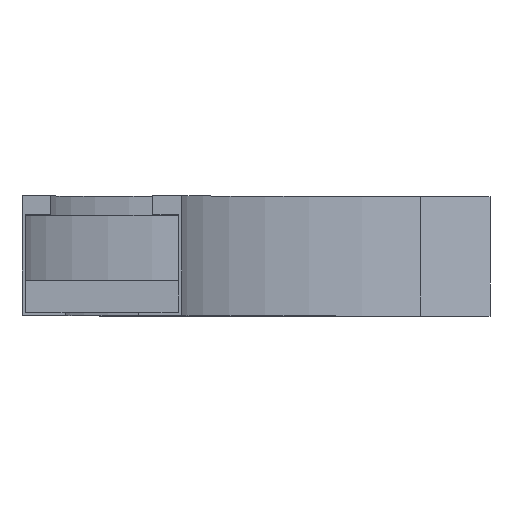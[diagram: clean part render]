
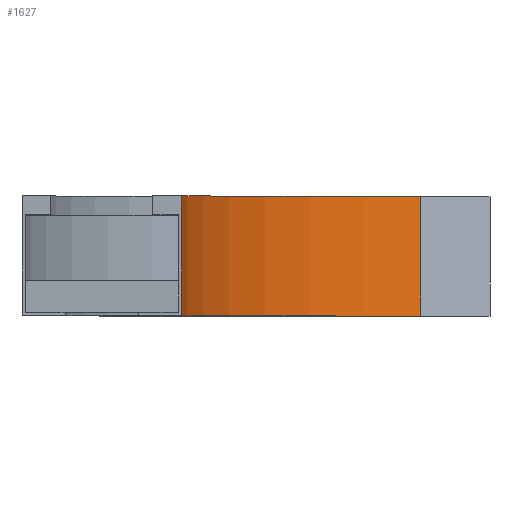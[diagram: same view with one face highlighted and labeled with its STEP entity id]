
A CAD part, top view. The second image highlights one B-rep face of the part: STEP entity #1627.
In plain terms, the highlighted cylindrical face has radius 300 mm (diameter 600 mm), a partial arc.
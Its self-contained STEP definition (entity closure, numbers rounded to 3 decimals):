
#34 = VERTEX_POINT ( 'NONE', #562 ) ;
#144 = CARTESIAN_POINT ( 'NONE',  ( 150., 75., -309.808 ) ) ;
#149 = AXIS2_PLACEMENT_3D ( 'NONE', #1434, #1177, #165 ) ;
#159 = ORIENTED_EDGE ( 'NONE', *, *, #524, .F. ) ;
#165 = DIRECTION ( 'NONE',  ( 0., 0., -1. ) ) ;
#193 = DIRECTION ( 'NONE',  ( 0., 1., 0. ) ) ;
#253 = EDGE_CURVE ( 'NONE', #567, #34, #758, .T. ) ;
#350 = DIRECTION ( 'NONE',  ( 0., -1., 0. ) ) ;
#393 = VERTEX_POINT ( 'NONE', #144 ) ;
#443 = VECTOR ( 'NONE', #501, 1000. ) ;
#469 = CIRCLE ( 'NONE', #939, 300. ) ;
#501 = DIRECTION ( 'NONE',  ( 0., 1., 0. ) ) ;
#522 = CARTESIAN_POINT ( 'NONE',  ( 0., 0., -50. ) ) ;
#524 = EDGE_CURVE ( 'NONE', #1267, #393, #469, .T. ) ;
#562 = CARTESIAN_POINT ( 'NONE',  ( 150., 0., -309.808 ) ) ;
#567 = VERTEX_POINT ( 'NONE', #522 ) ;
#614 = FACE_OUTER_BOUND ( 'NONE', #1612, .T. ) ;
#758 = CIRCLE ( 'NONE', #940, 300. ) ;
#779 = CARTESIAN_POINT ( 'NONE',  ( 150., 0., -309.808 ) ) ;
#905 = LINE ( 'NONE', #779, #1186 ) ;
#915 = DIRECTION ( 'NONE',  ( -1., 0., 0. ) ) ;
#922 = CARTESIAN_POINT ( 'NONE',  ( 300., 75., -50. ) ) ;
#939 = AXIS2_PLACEMENT_3D ( 'NONE', #922, #350, #915 ) ;
#940 = AXIS2_PLACEMENT_3D ( 'NONE', #1642, #1671, #957 ) ;
#957 = DIRECTION ( 'NONE',  ( -1., 0., 0. ) ) ;
#1130 = ORIENTED_EDGE ( 'NONE', *, *, #1282, .F. ) ;
#1177 = DIRECTION ( 'NONE',  ( 0., -1., 0. ) ) ;
#1186 = VECTOR ( 'NONE', #193, 1000. ) ;
#1211 = CARTESIAN_POINT ( 'NONE',  ( 0., 0., -50. ) ) ;
#1267 = VERTEX_POINT ( 'NONE', #1796 ) ;
#1282 = EDGE_CURVE ( 'NONE', #567, #1267, #1333, .T. ) ;
#1305 = ORIENTED_EDGE ( 'NONE', *, *, #253, .T. ) ;
#1333 = LINE ( 'NONE', #1211, #443 ) ;
#1413 = CYLINDRICAL_SURFACE ( 'NONE', #149, 300. ) ;
#1434 = CARTESIAN_POINT ( 'NONE',  ( 300., 0., -50. ) ) ;
#1519 = ORIENTED_EDGE ( 'NONE', *, *, #1693, .T. ) ;
#1612 = EDGE_LOOP ( 'NONE', ( #159, #1130, #1305, #1519 ) ) ;
#1627 = ADVANCED_FACE ( 'NONE', ( #614 ), #1413, .F. ) ;
#1642 = CARTESIAN_POINT ( 'NONE',  ( 300., 0., -50. ) ) ;
#1671 = DIRECTION ( 'NONE',  ( 0., -1., 0. ) ) ;
#1693 = EDGE_CURVE ( 'NONE', #34, #393, #905, .T. ) ;
#1796 = CARTESIAN_POINT ( 'NONE',  ( 0., 75., -50. ) ) ;
